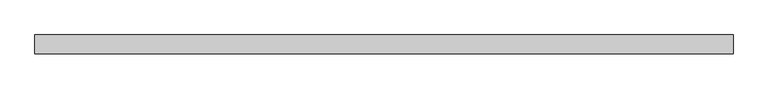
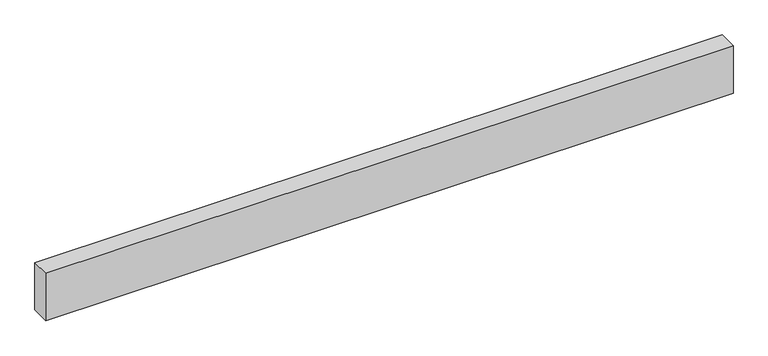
"""IFC4 building model written with IfcOpenShell, lengths in millimetres: beam geometry, Trus Joist - Parallam PSL - Beam Header : Parallam® 2.0E – 14 x 5 1/4”."""

from ifc_helpers import new_model, si_unit, frame, origin, place, context, project, spatial, polyline, outline, extrude, source, transform, mapped, element, save


def beam_c87b44ad(model_context):
    return source(origin(), model_context, "Body", "SweptSolid", [
        extrude(outline(polyline([(2438.3999994, 66.675), (2438.3999994, -66.675), (-2438.3999994, -66.675), (-2438.3999994, 66.675), (2438.3999994, 66.675)])), frame((0.0, 0.0, -177.8), z_axis=(0.0, 0.0, 1.0), x_axis=(1.0, 0.0, 0.0)), (0.0, 0.0, 1.0), 355.6),
    ])


if __name__ == "__main__":
    model = new_model("IFC4")
    model_context = context("Model", 3, world=origin())
    ifc_project = project(units=[si_unit("LENGTHUNIT", "METRE", prefix="MILLI")], contexts=[model_context])
    site = spatial("IfcSite", under=ifc_project)
    building = spatial("IfcBuilding", under=site)
    placement = place(None, origin())
    beam_shape = beam_c87b44ad(model_context)
    element("IfcBeam", 1, ObjectType="Trus Joist - Parallam PSL - Beam Header : Parallam® 2.0E – 14 x 5 1/4”", at=placement, inside=building, context=model_context, shape_type="MappedRepresentation", body=[
        mapped(beam_shape, transform((0.0, 0.0, 0.0), x_axis=(1.0, 0.0, 0.0), y_axis=(0.0, 1.0, 0.0), z_axis=(0.0, 0.0, 1.0))),
    ])
    save(model, "model.ifc")
